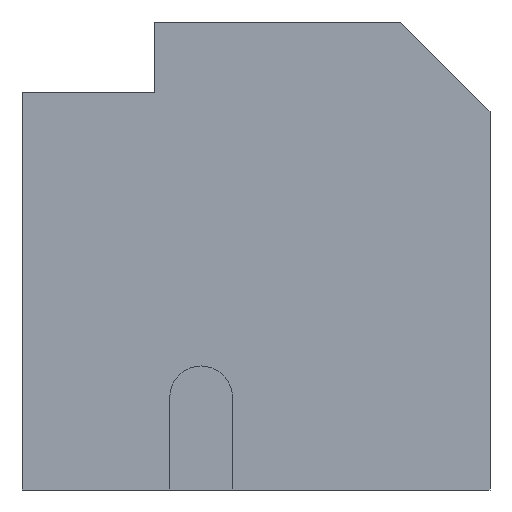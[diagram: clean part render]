
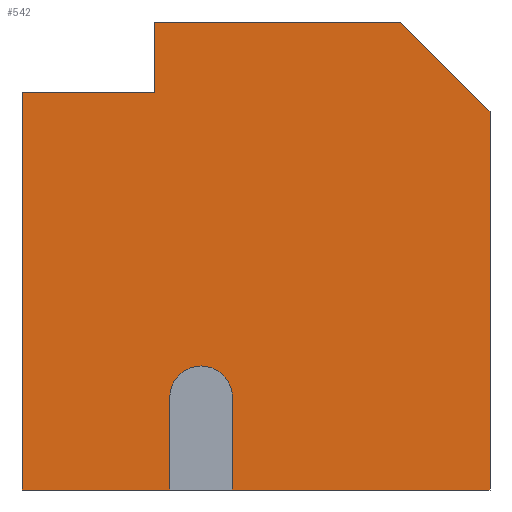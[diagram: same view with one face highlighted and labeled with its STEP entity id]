
A CAD part, front view. The second image highlights one B-rep face of the part: STEP entity #542.
In plain terms, the highlighted planar face has unit normal (0, -1, 0).
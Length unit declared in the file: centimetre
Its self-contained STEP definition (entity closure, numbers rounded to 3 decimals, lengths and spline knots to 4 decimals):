
#5 = LINE ( 'NONE', #420, #391 ) ;
#18 = VERTEX_POINT ( 'NONE', #149 ) ;
#20 = DIRECTION ( 'NONE',  ( 0., 0., 1. ) ) ;
#25 = EDGE_CURVE ( 'NONE', #538, #489, #5, .T. ) ;
#29 = DIRECTION ( 'NONE',  ( 1., 0., 0. ) ) ;
#30 = CARTESIAN_POINT ( 'NONE',  ( 808.9738, 0., 1000. ) ) ;
#47 = EDGE_CURVE ( 'NONE', #301, #806, #352, .T. ) ;
#54 = VERTEX_POINT ( 'NONE', #841 ) ;
#55 = AXIS2_PLACEMENT_3D ( 'NONE', #65, #77, #578 ) ;
#64 = CARTESIAN_POINT ( 'NONE',  ( 283.0215, 0., 850.1463 ) ) ;
#65 = CARTESIAN_POINT ( 'NONE',  ( 0., 0., 1000. ) ) ;
#69 = LINE ( 'NONE', #832, #641 ) ;
#76 = ORIENTED_EDGE ( 'NONE', *, *, #155, .T. ) ;
#77 = DIRECTION ( 'NONE',  ( 0., 1., 0. ) ) ;
#94 = LINE ( 'NONE', #389, #408 ) ;
#100 = ORIENTED_EDGE ( 'NONE', *, *, #872, .T. ) ;
#120 = CARTESIAN_POINT ( 'NONE',  ( 0., 0., 1000. ) ) ;
#139 = FACE_OUTER_BOUND ( 'NONE', #701, .T. ) ;
#142 = EDGE_CURVE ( 'NONE', #806, #180, #467, .T. ) ;
#144 = VECTOR ( 'NONE', #882, 100. ) ;
#149 = CARTESIAN_POINT ( 'NONE',  ( 1000., 0., 0. ) ) ;
#155 = EDGE_CURVE ( 'NONE', #691, #538, #400, .T. ) ;
#165 = VERTEX_POINT ( 'NONE', #601 ) ;
#180 = VERTEX_POINT ( 'NONE', #862 ) ;
#203 = DIRECTION ( 'NONE',  ( 0., 0., -1. ) ) ;
#213 = EDGE_CURVE ( 'NONE', #165, #554, #803, .T. ) ;
#224 = CARTESIAN_POINT ( 'NONE',  ( 382.6639, 0., 198.0364 ) ) ;
#225 = VECTOR ( 'NONE', #203, 100. ) ;
#237 = CARTESIAN_POINT ( 'NONE',  ( 283.0215, 0., 1000. ) ) ;
#254 = DIRECTION ( 'NONE',  ( 1., 0., 0. ) ) ;
#285 = EDGE_CURVE ( 'NONE', #691, #301, #94, .T. ) ;
#292 = CARTESIAN_POINT ( 'NONE',  ( 449.6233, 0., 198.0364 ) ) ;
#301 = VERTEX_POINT ( 'NONE', #668 ) ;
#325 = CARTESIAN_POINT ( 'NONE',  ( 1000., 0., 1000. ) ) ;
#352 = LINE ( 'NONE', #64, #621 ) ;
#367 = PLANE ( 'NONE',  #55 ) ;
#373 = DIRECTION ( 'NONE',  ( 0., -1., 0. ) ) ;
#389 = CARTESIAN_POINT ( 'NONE',  ( 0., 0., 850.1463 ) ) ;
#391 = VECTOR ( 'NONE', #898, 100. ) ;
#400 = LINE ( 'NONE', #674, #144 ) ;
#408 = VECTOR ( 'NONE', #29, 100. ) ;
#420 = CARTESIAN_POINT ( 'NONE',  ( 0., 0., 0. ) ) ;
#426 = EDGE_CURVE ( 'NONE', #515, #18, #827, .T. ) ;
#439 = AXIS2_PLACEMENT_3D ( 'NONE', #224, #373, #643 ) ;
#462 = DIRECTION ( 'NONE',  ( -0.707, 0., 0.707 ) ) ;
#467 = LINE ( 'NONE', #120, #783 ) ;
#469 = ORIENTED_EDGE ( 'NONE', *, *, #25, .T. ) ;
#477 = EDGE_CURVE ( 'NONE', #54, #489, #69, .T. ) ;
#479 = VECTOR ( 'NONE', #765, 100. ) ;
#483 = CARTESIAN_POINT ( 'NONE',  ( 0., 0., 0. ) ) ;
#487 = LINE ( 'NONE', #483, #479 ) ;
#489 = VERTEX_POINT ( 'NONE', #770 ) ;
#497 = CARTESIAN_POINT ( 'NONE',  ( 0., 0., 0. ) ) ;
#505 = VECTOR ( 'NONE', #20, 100. ) ;
#515 = VERTEX_POINT ( 'NONE', #633 ) ;
#538 = VERTEX_POINT ( 'NONE', #497 ) ;
#542 = ADVANCED_FACE ( 'NONE', ( #139 ), #367, .F. ) ;
#554 = VERTEX_POINT ( 'NONE', #292 ) ;
#565 = VECTOR ( 'NONE', #462, 100. ) ;
#573 = CARTESIAN_POINT ( 'NONE',  ( 0., 0., 850.1463 ) ) ;
#578 = DIRECTION ( 'NONE',  ( 0., 0., 1. ) ) ;
#590 = ORIENTED_EDGE ( 'NONE', *, *, #285, .F. ) ;
#597 = ORIENTED_EDGE ( 'NONE', *, *, #791, .T. ) ;
#601 = CARTESIAN_POINT ( 'NONE',  ( 449.6233, 0., 0. ) ) ;
#621 = VECTOR ( 'NONE', #627, 100. ) ;
#627 = DIRECTION ( 'NONE',  ( 0., 0., 1. ) ) ;
#633 = CARTESIAN_POINT ( 'NONE',  ( 1000., 0., 808.9738 ) ) ;
#641 = VECTOR ( 'NONE', #773, 100. ) ;
#643 = DIRECTION ( 'NONE',  ( 0., 0., 1. ) ) ;
#668 = CARTESIAN_POINT ( 'NONE',  ( 283.0215, 0., 850.1463 ) ) ;
#674 = CARTESIAN_POINT ( 'NONE',  ( 0., 0., 1000. ) ) ;
#681 = ORIENTED_EDGE ( 'NONE', *, *, #704, .F. ) ;
#691 = VERTEX_POINT ( 'NONE', #573 ) ;
#696 = ORIENTED_EDGE ( 'NONE', *, *, #47, .F. ) ;
#701 = EDGE_LOOP ( 'NONE', ( #727, #696, #590, #76, #469, #705, #681, #728, #100, #709, #597 ) ) ;
#704 = EDGE_CURVE ( 'NONE', #554, #54, #787, .T. ) ;
#705 = ORIENTED_EDGE ( 'NONE', *, *, #477, .F. ) ;
#709 = ORIENTED_EDGE ( 'NONE', *, *, #426, .F. ) ;
#727 = ORIENTED_EDGE ( 'NONE', *, *, #142, .F. ) ;
#728 = ORIENTED_EDGE ( 'NONE', *, *, #213, .F. ) ;
#765 = DIRECTION ( 'NONE',  ( 1., 0., 0. ) ) ;
#770 = CARTESIAN_POINT ( 'NONE',  ( 315.7045, 0., 0. ) ) ;
#773 = DIRECTION ( 'NONE',  ( 0., 0., -1. ) ) ;
#783 = VECTOR ( 'NONE', #254, 100. ) ;
#785 = CARTESIAN_POINT ( 'NONE',  ( 449.6233, 0., 198.0364 ) ) ;
#787 = CIRCLE ( 'NONE', #439, 66.9594 ) ;
#791 = EDGE_CURVE ( 'NONE', #515, #180, #863, .T. ) ;
#803 = LINE ( 'NONE', #785, #505 ) ;
#806 = VERTEX_POINT ( 'NONE', #237 ) ;
#827 = LINE ( 'NONE', #325, #225 ) ;
#832 = CARTESIAN_POINT ( 'NONE',  ( 315.7045, 0., 0. ) ) ;
#841 = CARTESIAN_POINT ( 'NONE',  ( 315.7045, 0., 198.0364 ) ) ;
#862 = CARTESIAN_POINT ( 'NONE',  ( 808.9738, 0., 1000. ) ) ;
#863 = LINE ( 'NONE', #30, #565 ) ;
#872 = EDGE_CURVE ( 'NONE', #165, #18, #487, .T. ) ;
#882 = DIRECTION ( 'NONE',  ( 0., 0., -1. ) ) ;
#898 = DIRECTION ( 'NONE',  ( 1., 0., 0. ) ) ;
